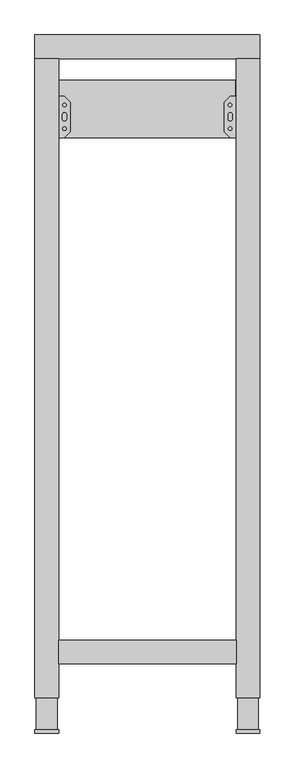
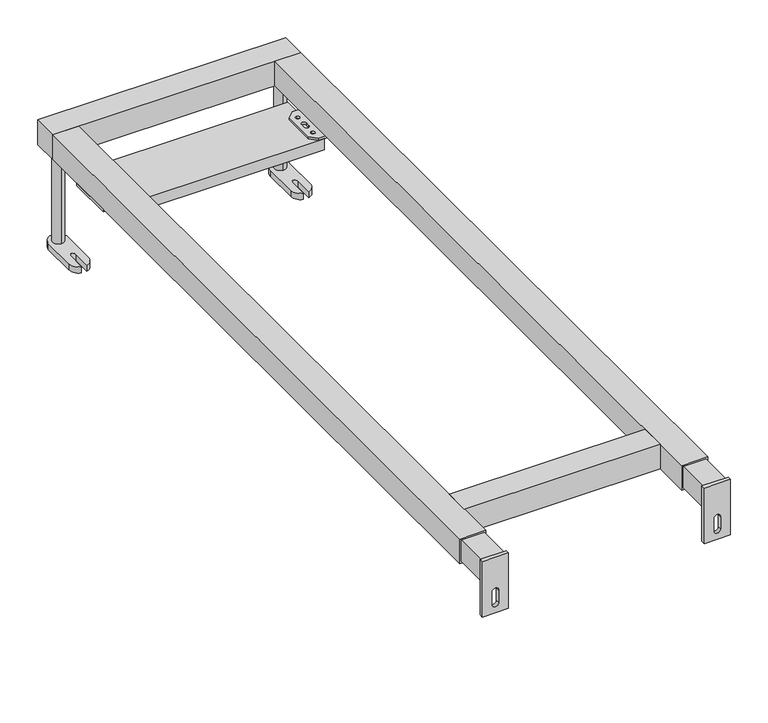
"""IFC4 building model written with IfcOpenShell, lengths in millimetres: sanitary terminal geometry, RSen_74_PF_FB_bath shower mixingtapframe xs_wisa : xs bath shower mixingtapframe_wisa_bath shower mixingtapframe."""

from ifc_helpers import new_model, si_unit, point, frame, frame_2d, origin, origin_with_axes, place, context, project, spatial, polyline, circle_curve, trimmed, segment, composite_curve, outline, extrude, source, transform, mapped, element, save


def sanitary_terminal_5ac2b754(model_context):
    return source(origin(), model_context, "Body", "SweptSolid", [
        extrude(outline(polyline([(149.0, 1006.5), (-149.0, 1006.5), (-149.0, 1103.5), (149.0, 1103.5), (149.0, 1006.5)])), frame((0.0, 0.0, 138.0), z_axis=(0.0, 0.0, 1.0), x_axis=(1.0, 0.0, 0.0)), (0.0, 0.0, 1.0), 18.0),
        extrude(outline(polyline([(140.0, 1006.5), (130.0, 1016.5), (130.0, 1066.5), (140.0, 1076.5), (190.0, 1076.5), (190.0, 1006.5), (140.0, 1006.5)]), holes=[composite_curve([segment(trimmed(circle_curve(frame_2d((175.0, 1041.5)), 4.5), [point((175.0, 1037.0))], [point((175.0, 1046.0))], True, "CARTESIAN"), True, "CONTINUOUS"), segment(trimmed(circle_curve(frame_2d((175.0, 1041.5)), 4.5), [point((175.0, 1046.0))], [point((175.0, 1037.0))], True, "CARTESIAN"), True, "CONTINUOUS")], self_intersect=False), composite_curve([segment(trimmed(circle_curve(frame_2d((175.0, 1061.5)), 4.5), [point((175.0, 1057.0))], [point((175.0, 1066.0))], True, "CARTESIAN"), True, "CONTINUOUS"), segment(trimmed(circle_curve(frame_2d((175.0, 1061.5)), 4.5), [point((175.0, 1066.0))], [point((175.0, 1057.0))], True, "CARTESIAN"), True, "CONTINUOUS")], self_intersect=False), composite_curve([segment(trimmed(circle_curve(frame_2d((175.0, 1021.5)), 4.5), [point((175.0, 1017.0))], [point((175.0, 1026.0))], True, "CARTESIAN"), True, "CONTINUOUS"), segment(trimmed(circle_curve(frame_2d((175.0, 1021.5)), 4.5), [point((175.0, 1026.0))], [point((175.0, 1017.0))], True, "CARTESIAN"), True, "CONTINUOUS")], self_intersect=False), composite_curve([segment(trimmed(circle_curve(frame_2d((140.0, 1061.5)), 2.9795218), [point((140.0, 1058.5204782))], [point((140.0, 1064.4795218))], True, "CARTESIAN"), True, "CONTINUOUS"), segment(trimmed(circle_curve(frame_2d((140.0, 1061.5)), 2.9795218), [point((140.0, 1064.4795218))], [point((140.0, 1058.5204782))], True, "CARTESIAN"), True, "CONTINUOUS")], self_intersect=False), composite_curve([segment(trimmed(circle_curve(frame_2d((140.0, 1021.5)), 2.9795218), [point((140.0, 1018.5204782))], [point((140.0, 1024.4795218))], True, "CARTESIAN"), True, "CONTINUOUS"), segment(trimmed(circle_curve(frame_2d((140.0, 1021.5)), 2.9795218), [point((140.0, 1024.4795218))], [point((140.0, 1018.5204782))], True, "CARTESIAN"), True, "CONTINUOUS")], self_intersect=False), composite_curve([segment(trimmed(circle_curve(frame_2d((140.0, 1045.0)), 3.5), [point((143.5, 1045.0))], [point((136.5, 1045.0))], True, "CARTESIAN"), True, "CONTINUOUS"), segment(polyline([(136.5, 1045.0), (136.5, 1038.0)]), True, "CONTINUOUS"), segment(trimmed(circle_curve(frame_2d((140.0, 1038.0)), 3.5), [point((136.5, 1038.0))], [point((143.5, 1038.0))], True, "CARTESIAN"), True, "CONTINUOUS"), segment(polyline([(143.5, 1038.0), (143.5, 1045.0)]), True, "CONTINUOUS")], self_intersect=False)]), frame((0.0, 0.0, 156.0), z_axis=(0.0, 0.0, 1.0), x_axis=(1.0, 0.0, 0.0)), (0.0, 0.0, 1.0), 4.0),
        extrude(outline(polyline([(-140.0, 1006.5), (-190.0, 1006.5), (-190.0, 1076.5), (-140.0, 1076.5), (-130.0, 1066.5), (-130.0, 1016.5), (-140.0, 1006.5)]), holes=[composite_curve([segment(trimmed(circle_curve(frame_2d((-175.0, 1041.5)), 4.5), [point((-175.0, 1037.0))], [point((-175.0, 1046.0))], True, "CARTESIAN"), True, "CONTINUOUS"), segment(trimmed(circle_curve(frame_2d((-175.0, 1041.5)), 4.5), [point((-175.0, 1046.0))], [point((-175.0, 1037.0))], True, "CARTESIAN"), True, "CONTINUOUS")], self_intersect=False), composite_curve([segment(trimmed(circle_curve(frame_2d((-175.0, 1061.5)), 4.5), [point((-175.0, 1057.0))], [point((-175.0, 1066.0))], True, "CARTESIAN"), True, "CONTINUOUS"), segment(trimmed(circle_curve(frame_2d((-175.0, 1061.5)), 4.5), [point((-175.0, 1066.0))], [point((-175.0, 1057.0))], True, "CARTESIAN"), True, "CONTINUOUS")], self_intersect=False), composite_curve([segment(trimmed(circle_curve(frame_2d((-175.0, 1021.5)), 4.5), [point((-175.0, 1017.0))], [point((-175.0, 1026.0))], True, "CARTESIAN"), True, "CONTINUOUS"), segment(trimmed(circle_curve(frame_2d((-175.0, 1021.5)), 4.5), [point((-175.0, 1026.0))], [point((-175.0, 1017.0))], True, "CARTESIAN"), True, "CONTINUOUS")], self_intersect=False), composite_curve([segment(trimmed(circle_curve(frame_2d((-140.0, 1061.5)), 2.9795218), [point((-140.0, 1058.5204782))], [point((-140.0, 1064.4795218))], True, "CARTESIAN"), True, "CONTINUOUS"), segment(trimmed(circle_curve(frame_2d((-140.0, 1061.5)), 2.9795218), [point((-140.0, 1064.4795218))], [point((-140.0, 1058.5204782))], True, "CARTESIAN"), True, "CONTINUOUS")], self_intersect=False), composite_curve([segment(trimmed(circle_curve(frame_2d((-140.0, 1021.5)), 2.9795218), [point((-140.0, 1018.5204782))], [point((-140.0, 1024.4795218))], True, "CARTESIAN"), True, "CONTINUOUS"), segment(trimmed(circle_curve(frame_2d((-140.0, 1021.5)), 2.9795218), [point((-140.0, 1024.4795218))], [point((-140.0, 1018.5204782))], True, "CARTESIAN"), True, "CONTINUOUS")], self_intersect=False), composite_curve([segment(polyline([(-143.5, 1045.0), (-143.5, 1038.0)]), True, "CONTINUOUS"), segment(trimmed(circle_curve(frame_2d((-140.0, 1038.0)), 3.5), [point((-143.5, 1038.0))], [point((-136.5, 1038.0))], True, "CARTESIAN"), True, "CONTINUOUS"), segment(polyline([(-136.5, 1038.0), (-136.5, 1045.0)]), True, "CONTINUOUS"), segment(trimmed(circle_curve(frame_2d((-140.0, 1045.0)), 3.5), [point((-136.5, 1045.0))], [point((-143.5, 1045.0))], True, "CARTESIAN"), True, "CONTINUOUS")], self_intersect=False)]), frame((0.0, 0.0, 156.0), z_axis=(0.0, 0.0, 1.0), x_axis=(1.0, 0.0, 0.0)), (0.0, 0.0, 1.0), 4.0),
        extrude(outline(composite_curve([segment(trimmed(circle_curve(frame_2d((-170.0, 1160.0)), 8.75), [point((-170.0, 1151.25))], [point((-170.0, 1168.75))], False, "CARTESIAN"), True, "CONTINUOUS"), segment(trimmed(circle_curve(frame_2d((-170.0, 1160.0)), 8.75), [point((-170.0, 1168.75))], [point((-170.0, 1151.25))], False, "CARTESIAN"), True, "CONTINUOUS")], self_intersect=False)), frame((0.0, 0.0, 10.0), z_axis=(0.0, 0.0, 1.0), x_axis=(1.0, 0.0, 0.0)), (0.0, 0.0, 1.0), 150.0),
        extrude(outline(composite_curve([segment(trimmed(circle_curve(frame_2d((170.0, 1160.0)), 8.75), [point((170.0, 1151.25))], [point((170.0, 1168.75))], False, "CARTESIAN"), True, "CONTINUOUS"), segment(trimmed(circle_curve(frame_2d((170.0, 1160.0)), 8.75), [point((170.0, 1168.75))], [point((170.0, 1151.25))], False, "CARTESIAN"), True, "CONTINUOUS")], self_intersect=False)), frame((0.0, 0.0, 10.0), z_axis=(0.0, 0.0, 1.0), x_axis=(1.0, 0.0, 0.0)), (0.0, 0.0, 1.0), 150.0),
        extrude(outline(composite_curve([segment(trimmed(circle_curve(frame_2d((-170.0, 1160.0)), 15.0), [point((-185.0, 1160.0))], [point((-155.0, 1160.0))], False, "CARTESIAN"), True, "CONTINUOUS"), segment(polyline([(-155.0, 1160.0), (-155.0, 1106.0)]), True, "CONTINUOUS"), segment(trimmed(circle_curve(frame_2d((-170.0, 1106.0)), 15.0), [point((-155.0, 1106.0))], [point((-166.0, 1091.5431677))], False, "CARTESIAN"), True, "CONTINUOUS"), segment(polyline([(-166.0, 1091.5431677), (-166.0, 1120.4568323)]), True, "CONTINUOUS"), segment(trimmed(circle_curve(frame_2d((-170.0, 1120.4568323)), 4.0), [point((-166.0, 1120.4568323))], [point((-174.0, 1120.4568323))], True, "CARTESIAN"), True, "CONTINUOUS"), segment(polyline([(-174.0, 1120.4568323), (-174.0, 1091.5431677)]), True, "CONTINUOUS"), segment(trimmed(circle_curve(frame_2d((-170.0, 1106.0)), 15.0), [point((-174.0, 1091.5431677))], [point((-185.0, 1106.0))], False, "CARTESIAN"), True, "CONTINUOUS"), segment(polyline([(-185.0, 1106.0), (-185.0, 1160.0)]), True, "CONTINUOUS")], self_intersect=False)), origin_with_axes(), (0.0, 0.0, 1.0), 10.0),
        extrude(outline(composite_curve([segment(polyline([(185.0, 1160.0), (185.0, 1106.0)]), True, "CONTINUOUS"), segment(trimmed(circle_curve(frame_2d((170.0, 1106.0)), 15.0), [point((185.0, 1106.0))], [point((174.0, 1091.5431677))], False, "CARTESIAN"), True, "CONTINUOUS"), segment(polyline([(174.0, 1091.5431677), (174.0, 1120.4568323)]), True, "CONTINUOUS"), segment(trimmed(circle_curve(frame_2d((170.0, 1120.4568323)), 4.0), [point((174.0, 1120.4568323))], [point((166.0, 1120.4568323))], True, "CARTESIAN"), True, "CONTINUOUS"), segment(polyline([(166.0, 1120.4568323), (166.0, 1091.5431677)]), True, "CONTINUOUS"), segment(trimmed(circle_curve(frame_2d((170.0, 1106.0)), 15.0), [point((166.0, 1091.5431677))], [point((155.0, 1106.0))], False, "CARTESIAN"), True, "CONTINUOUS"), segment(polyline([(155.0, 1106.0), (155.0, 1160.0)]), True, "CONTINUOUS"), segment(trimmed(circle_curve(frame_2d((170.0, 1160.0)), 15.0), [point((155.0, 1160.0))], [point((185.0, 1160.0))], False, "CARTESIAN"), True, "CONTINUOUS")], self_intersect=False)), origin_with_axes(), (0.0, 0.0, 1.0), 10.0),
        extrude(outline(polyline([(-187.5, 549.0), (-152.5, 549.0), (-152.5, 6.0), (-187.5, 6.0), (-187.5, 549.0)])), frame((0.0, 0.0, 162.5), z_axis=(0.0, 0.0, 1.0), x_axis=(1.0, 0.0, 0.0)), (0.0, 0.0, 1.0), 35.0),
        extrude(outline(polyline([(152.4841074, 549.0), (187.4841074, 549.0), (187.4841074, 6.0), (152.4841074, 6.0), (152.4841074, 549.0)])), frame((0.0, 0.0, 162.5), z_axis=(0.0, 0.0, 1.0), x_axis=(1.0, 0.0, 0.0)), (0.0, 0.0, 1.0), 35.0),
        extrude(outline(polyline([(200.0, 190.0), (200.0, 150.0), (110.0, 150.0), (110.0, 190.0), (200.0, 190.0)]), holes=[composite_curve([segment(trimmed(circle_curve(frame_2d((145.0, 170.0)), 5.0), [point((145.0, 165.0))], [point((145.0, 175.0))], True, "CARTESIAN"), True, "CONTINUOUS"), segment(polyline([(145.0, 175.0), (125.0, 175.0)]), True, "CONTINUOUS"), segment(trimmed(circle_curve(frame_2d((125.0, 170.0)), 5.0), [point((125.0, 175.0))], [point((125.0, 165.0))], True, "CARTESIAN"), True, "CONTINUOUS"), segment(polyline([(125.0, 165.0), (145.0, 165.0)]), True, "CONTINUOUS")], self_intersect=False)]), frame((0.0, 0.0, 0.0), z_axis=(0.0, 1.0, 0.0), x_axis=(0.0, 0.0, 1.0)), (0.0, 0.0, 1.0), 6.0),
        extrude(outline(polyline([(200.0, -150.0), (200.0, -190.0), (110.0, -190.0), (110.0, -150.0), (200.0, -150.0)]), holes=[composite_curve([segment(trimmed(circle_curve(frame_2d((145.0, -170.0)), 5.0), [point((145.0, -175.0))], [point((145.0, -165.0))], True, "CARTESIAN"), True, "CONTINUOUS"), segment(polyline([(145.0, -165.0), (125.0, -165.0)]), True, "CONTINUOUS"), segment(trimmed(circle_curve(frame_2d((125.0, -170.0)), 5.0), [point((125.0, -165.0))], [point((125.0, -175.0))], True, "CARTESIAN"), True, "CONTINUOUS"), segment(polyline([(125.0, -175.0), (145.0, -175.0)]), True, "CONTINUOUS")], self_intersect=False)]), frame((0.0, 0.0, 0.0), z_axis=(0.0, 1.0, 0.0), x_axis=(0.0, 0.0, 1.0)), (0.0, 0.0, 1.0), 6.0),
        extrude(outline(polyline([(150.0, 157.0), (150.0, 117.0), (-150.0, 117.0), (-150.0, 157.0), (150.0, 157.0)])), frame((0.0, 0.0, 160.0), z_axis=(0.0, 0.0, 1.0), x_axis=(1.0, 0.0, 0.0)), (0.0, 0.0, 1.0), 40.0),
        extrude(outline(polyline([(-150.0, 60.0), (-190.0, 60.0), (-190.0, 1140.0), (-150.0, 1140.0), (-150.0, 60.0)])), frame((0.0, 0.0, 160.0), z_axis=(0.0, 0.0, 1.0), x_axis=(1.0, 0.0, 0.0)), (0.0, 0.0, 1.0), 40.0),
        extrude(outline(polyline([(190.0, 60.0), (150.0, 60.0), (150.0, 1140.0), (190.0, 1140.0), (190.0, 60.0)])), frame((0.0, 0.0, 160.0), z_axis=(0.0, 0.0, 1.0), x_axis=(1.0, 0.0, 0.0)), (0.0, 0.0, 1.0), 40.0),
        extrude(outline(polyline([(190.0, 1180.0), (190.0, 1140.0), (-190.0, 1140.0), (-190.0, 1180.0), (190.0, 1180.0)])), frame((0.0, 0.0, 160.0), z_axis=(0.0, 0.0, 1.0), x_axis=(1.0, 0.0, 0.0)), (0.0, 0.0, 1.0), 40.0),
    ])


if __name__ == "__main__":
    model = new_model("IFC4")
    model_context = context("Model", 3, world=origin())
    ifc_project = project(units=[si_unit("LENGTHUNIT", "METRE", prefix="MILLI")], contexts=[model_context])
    site = spatial("IfcSite", under=ifc_project)
    building = spatial("IfcBuilding", under=site)
    placement = place(None, origin())
    sanitary_terminal_shape = sanitary_terminal_5ac2b754(model_context)
    element("IfcSanitaryTerminal", 1, ObjectType="RSen_74_PF_FB_bath shower mixingtapframe xs_wisa : xs bath shower mixingtapframe_wisa_bath shower mixingtapframe", at=placement, inside=building, context=model_context, shape_type="MappedRepresentation", body=[
        mapped(sanitary_terminal_shape, transform((0.0, 0.0, 0.0), x_axis=(1.0, 0.0, 0.0), y_axis=(0.0, 1.0, 0.0), z_axis=(0.0, 0.0, 1.0))),
    ])
    save(model, "model.ifc")
